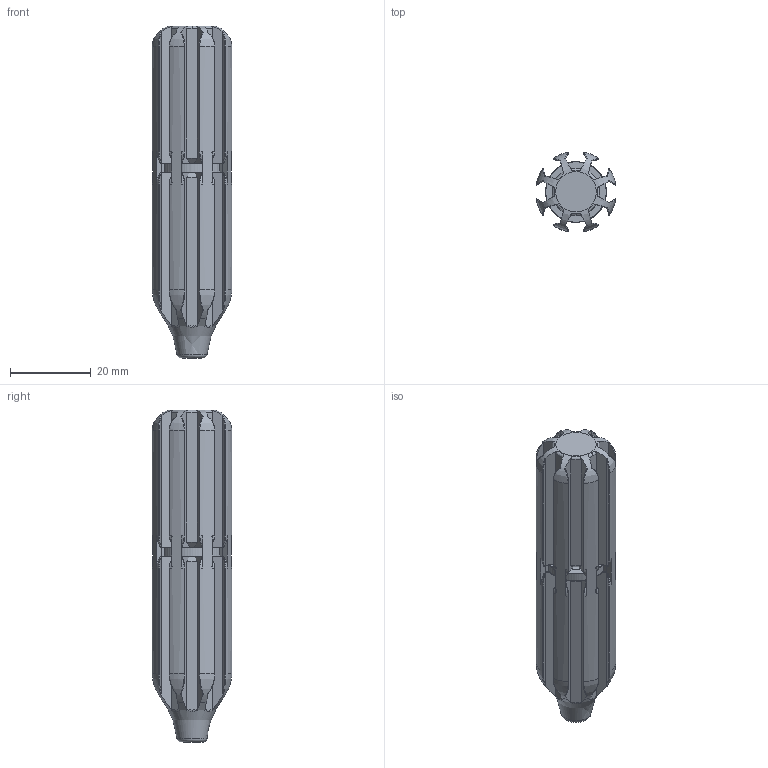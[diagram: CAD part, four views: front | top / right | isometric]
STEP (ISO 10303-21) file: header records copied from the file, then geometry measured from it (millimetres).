
FILE_DESCRIPTION(('FreeCAD Model'),'2;1');
FILE_NAME('Open CASCADE Shape Model','2021-06-11T18:42:11',(''),(''), 'Open CASCADE STEP processor 7.5','FreeCAD','Unknown');
FILE_SCHEMA(('AUTOMOTIVE_DESIGN { 1 0 10303 214 1 1 1 1 }'));
Products named in the file (1): Handle
Bounding box: 19.63 x 19.63 x 82 mm (x, y, z)
Volume: 9281.3 mm3; surface area: 17378.1 mm2
Topology: 1 solids, 1 shells, 490 faces, 1478 edges, 963 vertices
Faces by surface type: plane 237, bspline 147, cylinder 64, cone 32, revolution 10
Entity records: 68659 total; most frequent: CARTESIAN_POINT 43125, DIRECTION 3837, ORIENTED_EDGE 2924, PCURVE 2924, DEFINITIONAL_REPRESENTATION 2924, LINE 2309, VECTOR 2309, EDGE_CURVE 1462
